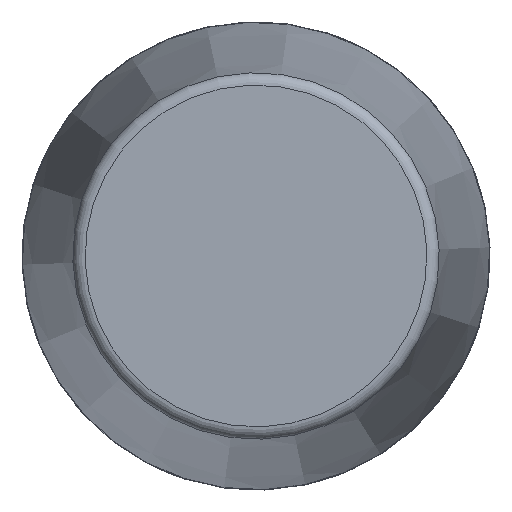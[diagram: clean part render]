
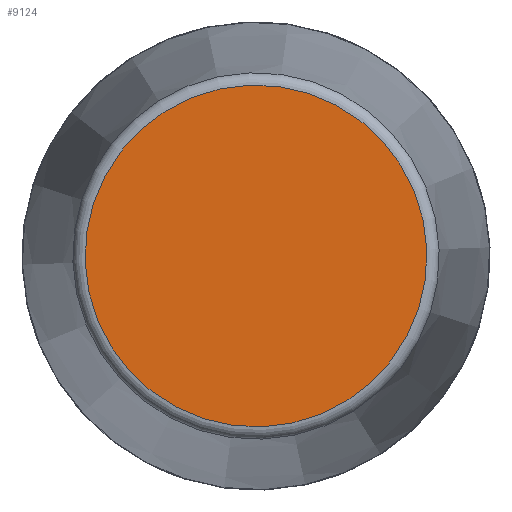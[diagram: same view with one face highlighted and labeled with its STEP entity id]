
A CAD part, front view. The second image highlights one B-rep face of the part: STEP entity #9124.
In plain terms, the highlighted planar face has unit normal (0, -1, 0) as drawn and (1, 0, 0) by its records, which use the part's own axes.
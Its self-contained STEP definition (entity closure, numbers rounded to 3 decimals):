
#2530=PLANE('',#9493);
#3140=FACE_OUTER_BOUND('',#3726,.T.);
#3726=EDGE_LOOP('',(#8589));
#3767=CIRCLE('',#9489,69.351);
#4659=VERTEX_POINT('',#17215);
#5972=EDGE_CURVE('',#4659,#4659,#3767,.T.);
#8589=ORIENTED_EDGE('',*,*,#5972,.F.);
#9124=ADVANCED_FACE('',(#3140),#2530,.T.);
#9489=AXIS2_PLACEMENT_3D('',#17216,#10841,#10842);
#9493=AXIS2_PLACEMENT_3D('',#17222,#10849,#10850);
#10841=DIRECTION('center_axis',(-1.,0.,0.));
#10842=DIRECTION('ref_axis',(0.,0.,
1.));
#10849=DIRECTION('center_axis',(1.,0.,0.));
#10850=DIRECTION('ref_axis',(0.,0.,-1.));
#17215=CARTESIAN_POINT('',(359.5,0.,-69.351));
#17216=CARTESIAN_POINT('Origin',(359.5,0.,0.));
#17222=CARTESIAN_POINT('Origin',(359.5,0.,0.));
